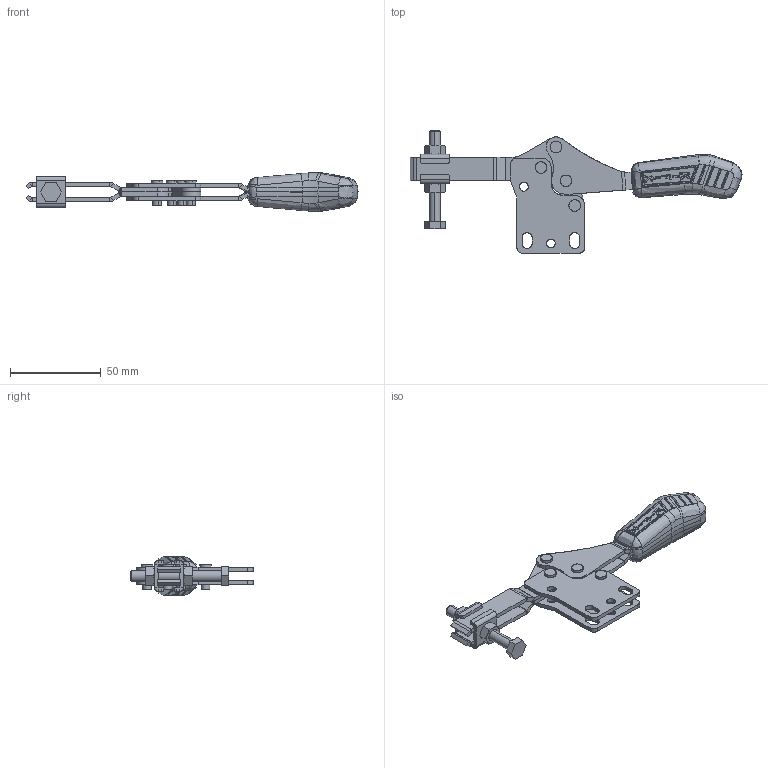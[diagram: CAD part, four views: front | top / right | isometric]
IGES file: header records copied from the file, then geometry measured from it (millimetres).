
Start section: SolidWorks IGES file using analytic representation for surfaces
Global section: file name: C:\Projetos\Grampos\KF-712\KF-712 R\KF-712 R.IGS; native system: SolidWorks 2018; preprocessor: SolidWorks 2018; author: Ricardo; date: 180306.083031; units: millimetre
Bounding box: 182.7 x 67.35 x 21.21 mm (x, y, z)
Surface area: 30882.4 mm2 (no closed solid volume)
Topology: 0 solids, 0 shells, 1010 faces, 9686 edges, 9634 vertices
Faces by surface type: bspline 596, revolution 414
